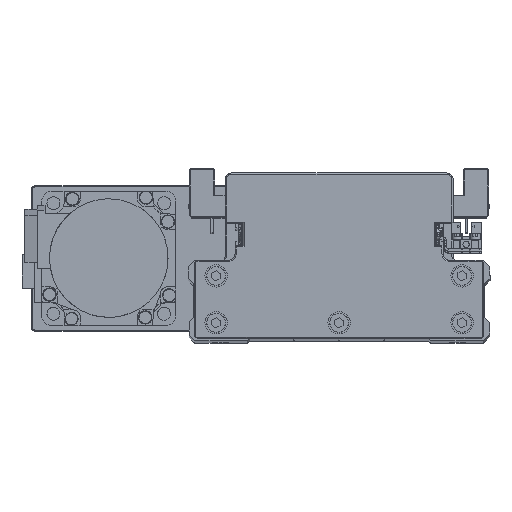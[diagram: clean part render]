
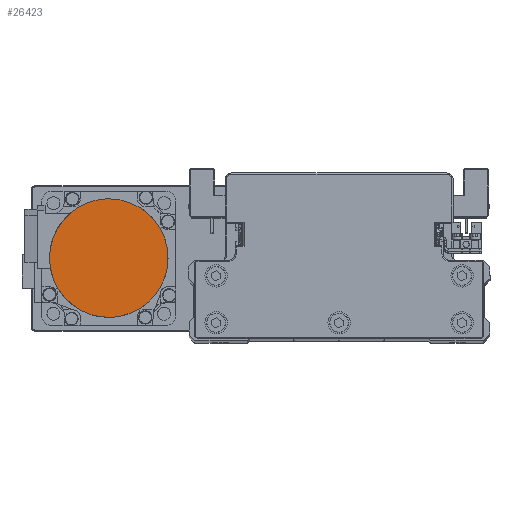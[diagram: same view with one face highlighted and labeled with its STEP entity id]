
A CAD part, top view. The second image highlights one B-rep face of the part: STEP entity #26423.
In plain terms, the highlighted planar face has unit normal (0, 0, 1) as drawn and (0, 0, -1) by its records, which use the part's own axes.
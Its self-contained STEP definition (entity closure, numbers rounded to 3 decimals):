
#1259 = CARTESIAN_POINT ( 'NONE',  ( -19.965, -17.512, -109.7 ) ) ;
#1383 = CARTESIAN_POINT ( 'NONE',  ( 22.998, 13.28, -109.7 ) ) ;
#1466 = CARTESIAN_POINT ( 'NONE',  ( 11.744, -23.819, -109.7 ) ) ;
#1592 = CARTESIAN_POINT ( 'NONE',  ( -6.871, 25.652, -109.7 ) ) ;
#1788 = CARTESIAN_POINT ( 'NONE',  ( -26.5, 1.734, -109.7 ) ) ;
#2020 = DIRECTION ( 'NONE',  ( 1., 0., 0. ) ) ;
#2581 = B_SPLINE_CURVE_WITH_KNOTS ( 'NONE', 3,
 ( #22893, #35338, #7390, #19841, #32292, #4336, #16784, #29227, #1259, #13712, #26162, #38597, #10660, #23100, #35554, #7600, #20043, #32482, #4524, #16974, #29428, #1466, #13913, #26358, #38807, #10867, #23299, #35740, #7787, #20231, #32679, #4728, #17178, #29621 ),
 .UNSPECIFIED., .F., .F.,
 ( 4, 2, 2, 2, 2, 2, 2, 2, 2, 2, 2, 2, 2, 2, 2, 2, 4 ),
 ( 0., 0.063, 0.125, 0.188, 0.25, 0.312, 0.375, 0.437, 0.5, 0.562, 0.625, 0.687, 0.75, 0.813, 0.875, 0.938, 1. ),
 .UNSPECIFIED. ) ;
#3227 = VERTEX_POINT ( 'NONE', #9989 ) ;
#3625 = AXIS2_PLACEMENT_3D ( 'NONE', #17524, #29973, #2020 ) ;
#4336 = CARTESIAN_POINT ( 'NONE',  ( -23.819, -11.744, -109.7 ) ) ;
#4457 = CARTESIAN_POINT ( 'NONE',  ( 25.652, 6.871, -109.7 ) ) ;
#4524 = CARTESIAN_POINT ( 'NONE',  ( 3.469, -26.329, -109.7 ) ) ;
#4647 = CARTESIAN_POINT ( 'NONE',  ( 1.734, 26.5, -109.7 ) ) ;
#4728 = CARTESIAN_POINT ( 'NONE',  ( 26.329, -3.469, -109.7 ) ) ;
#4843 = CARTESIAN_POINT ( 'NONE',  ( -25.147, 8.539, -109.7 ) ) ;
#5039 = CARTESIAN_POINT ( 'NONE',  ( -26.5, 0., -109.7 ) ) ;
#5085 = PLANE ( 'NONE',  #3625 ) ;
#7390 = CARTESIAN_POINT ( 'NONE',  ( -26.329, -3.469, -109.7 ) ) ;
#7528 = CARTESIAN_POINT ( 'NONE',  ( 26.5, 0., -109.7 ) ) ;
#7600 = CARTESIAN_POINT ( 'NONE',  ( -3.469, -26.329, -109.7 ) ) ;
#7719 = CARTESIAN_POINT ( 'NONE',  ( 8.539, 25.147, -109.7 ) ) ;
#7787 = CARTESIAN_POINT ( 'NONE',  ( 23.819, -11.744, -109.7 ) ) ;
#7914 = CARTESIAN_POINT ( 'NONE',  ( -21.07, 16.165, -109.7 ) ) ;
#9989 = CARTESIAN_POINT ( 'NONE',  ( 26.5, 0., -109.7 ) ) ;
#10660 = CARTESIAN_POINT ( 'NONE',  ( -11.744, -23.819, -109.7 ) ) ;
#10798 = CARTESIAN_POINT ( 'NONE',  ( 16.165, 21.07, -109.7 ) ) ;
#10867 = CARTESIAN_POINT ( 'NONE',  ( 19.965, -17.512, -109.7 ) ) ;
#10983 = CARTESIAN_POINT ( 'NONE',  ( -16.165, 21.07, -109.7 ) ) ;
#13712 = CARTESIAN_POINT ( 'NONE',  ( -17.512, -19.965, -109.7 ) ) ;
#13835 = CARTESIAN_POINT ( 'NONE',  ( 21.07, 16.165, -109.7 ) ) ;
#13913 = CARTESIAN_POINT ( 'NONE',  ( 13.28, -22.998, -109.7 ) ) ;
#14045 = CARTESIAN_POINT ( 'NONE',  ( -8.539, 25.147, -109.7 ) ) ;
#14236 = CARTESIAN_POINT ( 'NONE',  ( -26.5, 0., -109.7 ) ) ;
#16784 = CARTESIAN_POINT ( 'NONE',  ( -22.998, -13.28, -109.7 ) ) ;
#16900 = CARTESIAN_POINT ( 'NONE',  ( 25.147, 8.539, -109.7 ) ) ;
#16974 = CARTESIAN_POINT ( 'NONE',  ( 6.871, -25.652, -109.7 ) ) ;
#17095 = CARTESIAN_POINT ( 'NONE',  ( -1.734, 26.5, -109.7 ) ) ;
#17146 = ORIENTED_EDGE ( 'NONE', *, *, #20490, .F. ) ;
#17178 = CARTESIAN_POINT ( 'NONE',  ( 26.5, -1.734, -109.7 ) ) ;
#17300 = CARTESIAN_POINT ( 'NONE',  ( -25.652, 6.871, -109.7 ) ) ;
#17524 = CARTESIAN_POINT ( 'NONE',  ( 0., 0., -109.7 ) ) ;
#17596 = VERTEX_POINT ( 'NONE', #5039 ) ;
#19841 = CARTESIAN_POINT ( 'NONE',  ( -25.652, -6.871, -109.7 ) ) ;
#19976 = CARTESIAN_POINT ( 'NONE',  ( 26.5, 1.734, -109.7 ) ) ;
#20043 = CARTESIAN_POINT ( 'NONE',  ( -1.734, -26.5, -109.7 ) ) ;
#20157 = CARTESIAN_POINT ( 'NONE',  ( 6.871, 25.652, -109.7 ) ) ;
#20231 = CARTESIAN_POINT ( 'NONE',  ( 25.147, -8.539, -109.7 ) ) ;
#20352 = CARTESIAN_POINT ( 'NONE',  ( -22.998, 13.28, -109.7 ) ) ;
#20490 = EDGE_CURVE ( 'NONE', #17596, #3227, #2581, .T. ) ;
#20583 = ORIENTED_EDGE ( 'NONE', *, *, #30013, .F. ) ;
#22893 = CARTESIAN_POINT ( 'NONE',  ( -26.5, 0., -109.7 ) ) ;
#23100 = CARTESIAN_POINT ( 'NONE',  ( -8.539, -25.147, -109.7 ) ) ;
#23229 = CARTESIAN_POINT ( 'NONE',  ( 13.28, 22.998, -109.7 ) ) ;
#23299 = CARTESIAN_POINT ( 'NONE',  ( 21.07, -16.165, -109.7 ) ) ;
#23412 = CARTESIAN_POINT ( 'NONE',  ( -17.512, 19.965, -109.7 ) ) ;
#26162 = CARTESIAN_POINT ( 'NONE',  ( -16.165, -21.07, -109.7 ) ) ;
#26282 = CARTESIAN_POINT ( 'NONE',  ( 19.965, 17.512, -109.7 ) ) ;
#26358 = CARTESIAN_POINT ( 'NONE',  ( 16.165, -21.07, -109.7 ) ) ;
#26423 = ADVANCED_FACE ( 'NONE', ( #33045 ), #5085, .F. ) ;
#26486 = CARTESIAN_POINT ( 'NONE',  ( -11.744, 23.819, -109.7 ) ) ;
#28102 = EDGE_LOOP ( 'NONE', ( #20583, #17146 ) ) ;
#29227 = CARTESIAN_POINT ( 'NONE',  ( -21.07, -16.165, -109.7 ) ) ;
#29341 = CARTESIAN_POINT ( 'NONE',  ( 23.819, 11.744, -109.7 ) ) ;
#29428 = CARTESIAN_POINT ( 'NONE',  ( 8.539, -25.147, -109.7 ) ) ;
#29543 = CARTESIAN_POINT ( 'NONE',  ( -3.469, 26.329, -109.7 ) ) ;
#29621 = CARTESIAN_POINT ( 'NONE',  ( 26.5, 0., -109.7 ) ) ;
#29751 = CARTESIAN_POINT ( 'NONE',  ( -26.329, 3.469, -109.7 ) ) ;
#29973 = DIRECTION ( 'NONE',  ( 0., 0., 1. ) ) ;
#30013 = EDGE_CURVE ( 'NONE', #3227, #17596, #38352, .T. ) ;
#32292 = CARTESIAN_POINT ( 'NONE',  ( -25.147, -8.539, -109.7 ) ) ;
#32413 = CARTESIAN_POINT ( 'NONE',  ( 26.329, 3.469, -109.7 ) ) ;
#32482 = CARTESIAN_POINT ( 'NONE',  ( 1.734, -26.5, -109.7 ) ) ;
#32600 = CARTESIAN_POINT ( 'NONE',  ( 3.469, 26.329, -109.7 ) ) ;
#32679 = CARTESIAN_POINT ( 'NONE',  ( 25.652, -6.871, -109.7 ) ) ;
#32803 = CARTESIAN_POINT ( 'NONE',  ( -23.819, 11.744, -109.7 ) ) ;
#33045 = FACE_OUTER_BOUND ( 'NONE', #28102, .T. ) ;
#35338 = CARTESIAN_POINT ( 'NONE',  ( -26.5, -1.734, -109.7 ) ) ;
#35554 = CARTESIAN_POINT ( 'NONE',  ( -6.871, -25.652, -109.7 ) ) ;
#35677 = CARTESIAN_POINT ( 'NONE',  ( 11.744, 23.819, -109.7 ) ) ;
#35740 = CARTESIAN_POINT ( 'NONE',  ( 22.998, -13.28, -109.7 ) ) ;
#35858 = CARTESIAN_POINT ( 'NONE',  ( -19.965, 17.512, -109.7 ) ) ;
#38352 = B_SPLINE_CURVE_WITH_KNOTS ( 'NONE', 3,
 ( #7528, #19976, #32413, #4457, #16900, #29341, #1383, #13835, #26282, #38725, #10798, #23229, #35677, #7719, #20157, #32600, #4647, #17095, #29543, #1592, #14045, #26486, #38925, #10983, #23412, #35858, #7914, #20352, #32803, #4843, #17300, #29751, #1788, #14236 ),
 .UNSPECIFIED., .F., .F.,
 ( 4, 2, 2, 2, 2, 2, 2, 2, 2, 2, 2, 2, 2, 2, 2, 2, 4 ),
 ( 0., 0.062, 0.125, 0.187, 0.25, 0.312, 0.375, 0.437, 0.5, 0.562, 0.625, 0.687, 0.75, 0.813, 0.875, 0.938, 1. ),
 .UNSPECIFIED. ) ;
#38597 = CARTESIAN_POINT ( 'NONE',  ( -13.28, -22.998, -109.7 ) ) ;
#38725 = CARTESIAN_POINT ( 'NONE',  ( 17.512, 19.965, -109.7 ) ) ;
#38807 = CARTESIAN_POINT ( 'NONE',  ( 17.512, -19.965, -109.7 ) ) ;
#38925 = CARTESIAN_POINT ( 'NONE',  ( -13.28, 22.998, -109.7 ) ) ;
